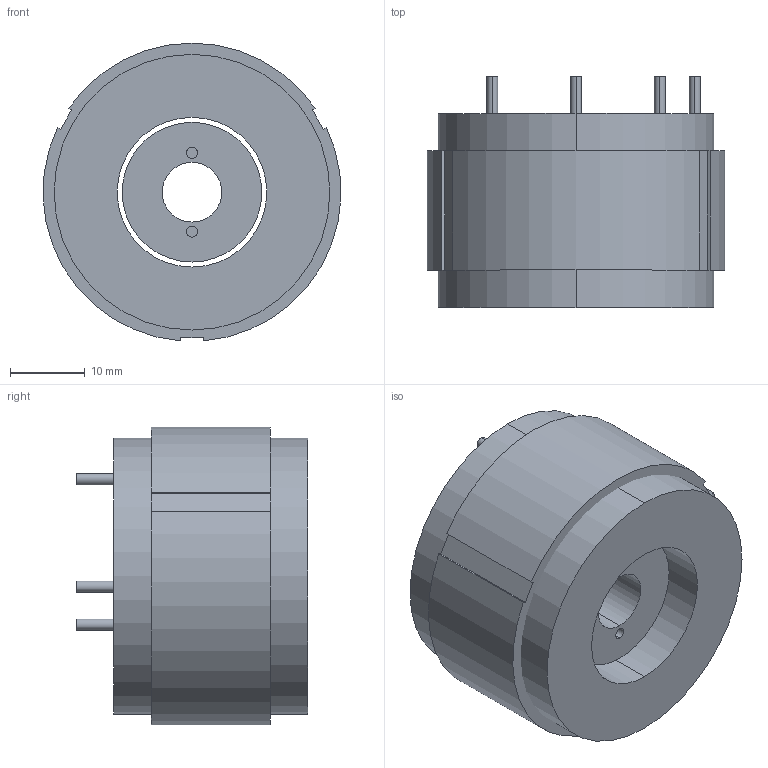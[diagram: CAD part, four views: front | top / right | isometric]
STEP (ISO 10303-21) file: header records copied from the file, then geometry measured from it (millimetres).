
FILE_DESCRIPTION (( 'STEP AP203' ), '1' );
FILE_NAME ('TM40-25 KIT 3D.STEP', '2023-01-03T07:28:46', ( '' ), ( '' ), 'SwSTEP 2.0', 'SolidWorks 2021', '' );
FILE_SCHEMA (( 'CONFIG_CONTROL_DESIGN' ));
Length unit declared in the file: millimetre
Products named in the file (1): TM40-25 KIT 3D
Bounding box: 39.97 x 31 x 39.94 mm (x, y, z)
Volume: 27056.2 mm3; surface area: 12475.9 mm2
Topology: 3 solids, 3 shells, 52 faces, 114 edges, 76 vertices
Faces by surface type: cylinder 29, plane 23
Entity records: 1541 total; most frequent: DIRECTION 278, CARTESIAN_POINT 243, ORIENTED_EDGE 228, EDGE_CURVE 114, AXIS2_PLACEMENT_3D 111, VERTEX_POINT 76, EDGE_LOOP 66, CIRCLE 58
